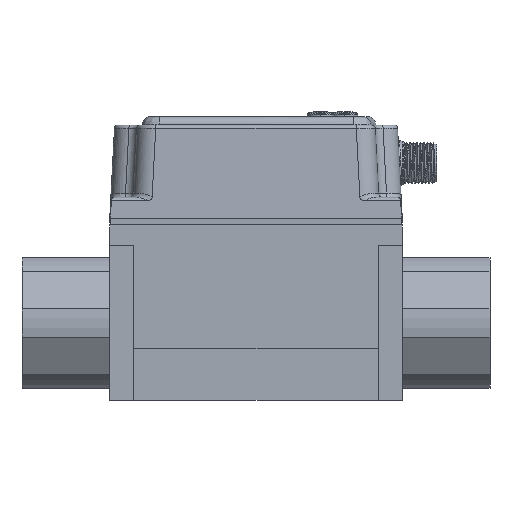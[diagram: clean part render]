
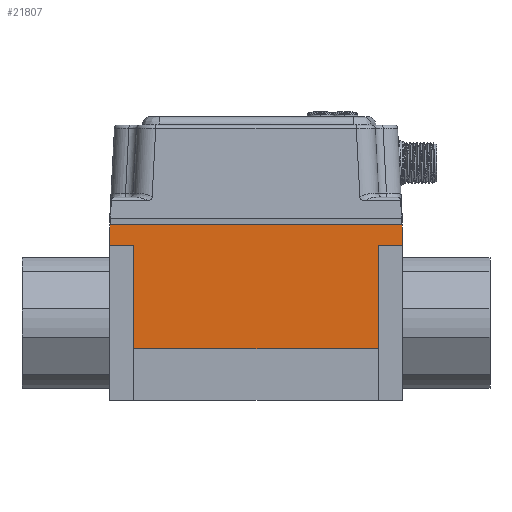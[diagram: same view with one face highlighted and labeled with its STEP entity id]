
A CAD part, front view. The second image highlights one B-rep face of the part: STEP entity #21807.
In plain terms, the highlighted planar face has unit normal (0, -1, 0).
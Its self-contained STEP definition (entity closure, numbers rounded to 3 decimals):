
#1643 = VECTOR ( 'NONE', #39839, 1000. ) ;
#2556 = DIRECTION ( 'NONE',  ( 0., 0., -1. ) ) ;
#3034 = CARTESIAN_POINT ( 'NONE',  ( -41., -21.5, -4.4 ) ) ;
#6923 = VECTOR ( 'NONE', #108307, 1000. ) ;
#11722 = CARTESIAN_POINT ( 'NONE',  ( 30., -21.5, -34.4 ) ) ;
#12750 = EDGE_CURVE ( 'NONE', #123979, #86198, #103995, .T. ) ;
#14672 = EDGE_CURVE ( 'NONE', #140721, #24579, #104472, .T. ) ;
#17910 = VERTEX_POINT ( 'NONE', #46565 ) ;
#18131 = ORIENTED_EDGE ( 'NONE', *, *, #102226, .F. ) ;
#21807 = ADVANCED_FACE ( 'NONE', ( #109444 ), #43523, .F. ) ;
#24579 = VERTEX_POINT ( 'NONE', #85633 ) ;
#24910 = CARTESIAN_POINT ( 'NONE',  ( -41., -21.5, -4.4 ) ) ;
#29297 = EDGE_CURVE ( 'NONE', #24579, #128346, #43829, .T. ) ;
#38266 = LINE ( 'NONE', #62882, #50941 ) ;
#39839 = DIRECTION ( 'NONE',  ( 0., 0., -1. ) ) ;
#40553 = ORIENTED_EDGE ( 'NONE', *, *, #129197, .F. ) ;
#42756 = EDGE_LOOP ( 'NONE', ( #141335, #135728, #18131, #98484, #116358, #87081, #106268, #40553 ) ) ;
#43523 = PLANE ( 'NONE',  #157452 ) ;
#43829 = LINE ( 'NONE', #84228, #144358 ) ;
#46565 = CARTESIAN_POINT ( 'NONE',  ( -41., -21.5, -34.4 ) ) ;
#48871 = LINE ( 'NONE', #91607, #139483 ) ;
#50941 = VECTOR ( 'NONE', #117332, 1000. ) ;
#62882 = CARTESIAN_POINT ( 'NONE',  ( 37., -21.5, -4.4 ) ) ;
#66162 = DIRECTION ( 'NONE',  ( -1., 0., 0. ) ) ;
#67076 = CARTESIAN_POINT ( 'NONE',  ( 37., -21.5, 1.6 ) ) ;
#82971 = CARTESIAN_POINT ( 'NONE',  ( 37., -21.5, 1.6 ) ) ;
#84172 = CARTESIAN_POINT ( 'NONE',  ( -48., -21.5, -4.4 ) ) ;
#84228 = CARTESIAN_POINT ( 'NONE',  ( -48., -21.5, 1.6 ) ) ;
#84876 = EDGE_CURVE ( 'NONE', #140721, #138950, #132976, .T. ) ;
#85633 = CARTESIAN_POINT ( 'NONE',  ( -48., -21.5, 1.6 ) ) ;
#86198 = VERTEX_POINT ( 'NONE', #140206 ) ;
#87081 = ORIENTED_EDGE ( 'NONE', *, *, #29297, .T. ) ;
#91607 = CARTESIAN_POINT ( 'NONE',  ( -41., -21.5, -34.4 ) ) ;
#95969 = LINE ( 'NONE', #150499, #6923 ) ;
#97091 = DIRECTION ( 'NONE',  ( 1., 0., 0. ) ) ;
#98484 = ORIENTED_EDGE ( 'NONE', *, *, #84876, .F. ) ;
#102226 = EDGE_CURVE ( 'NONE', #138950, #86198, #38266, .T. ) ;
#103995 = LINE ( 'NONE', #11722, #157951 ) ;
#104472 = LINE ( 'NONE', #120294, #163611 ) ;
#106268 = ORIENTED_EDGE ( 'NONE', *, *, #132198, .F. ) ;
#108307 = DIRECTION ( 'NONE',  ( 1., 0., 0. ) ) ;
#108325 = LINE ( 'NONE', #24910, #134060 ) ;
#109444 = FACE_OUTER_BOUND ( 'NONE', #42756, .T. ) ;
#116358 = ORIENTED_EDGE ( 'NONE', *, *, #14672, .T. ) ;
#117332 = DIRECTION ( 'NONE',  ( -1., 0., 0. ) ) ;
#120114 = VERTEX_POINT ( 'NONE', #3034 ) ;
#120294 = CARTESIAN_POINT ( 'NONE',  ( 37., -21.5, 1.6 ) ) ;
#121144 = EDGE_CURVE ( 'NONE', #17910, #123979, #95969, .T. ) ;
#123979 = VERTEX_POINT ( 'NONE', #134665 ) ;
#128346 = VERTEX_POINT ( 'NONE', #84172 ) ;
#129197 = EDGE_CURVE ( 'NONE', #17910, #120114, #48871, .T. ) ;
#129575 = CARTESIAN_POINT ( 'NONE',  ( 37., -21.5, -4.4 ) ) ;
#132198 = EDGE_CURVE ( 'NONE', #120114, #128346, #108325, .T. ) ;
#132976 = LINE ( 'NONE', #67076, #1643 ) ;
#134060 = VECTOR ( 'NONE', #66162, 1000. ) ;
#134665 = CARTESIAN_POINT ( 'NONE',  ( 30., -21.5, -34.4 ) ) ;
#135728 = ORIENTED_EDGE ( 'NONE', *, *, #12750, .T. ) ;
#135822 = DIRECTION ( 'NONE',  ( 0., 1., 0. ) ) ;
#138950 = VERTEX_POINT ( 'NONE', #129575 ) ;
#139483 = VECTOR ( 'NONE', #173391, 1000. ) ;
#140206 = CARTESIAN_POINT ( 'NONE',  ( 30., -21.5, -4.4 ) ) ;
#140721 = VERTEX_POINT ( 'NONE', #82971 ) ;
#141335 = ORIENTED_EDGE ( 'NONE', *, *, #121144, .T. ) ;
#144358 = VECTOR ( 'NONE', #2556, 1000. ) ;
#150499 = CARTESIAN_POINT ( 'NONE',  ( -41., -21.5, -34.4 ) ) ;
#157452 = AXIS2_PLACEMENT_3D ( 'NONE', #163052, #135822, #97091 ) ;
#157641 = DIRECTION ( 'NONE',  ( 0., 0., 1. ) ) ;
#157951 = VECTOR ( 'NONE', #157641, 1000. ) ;
#158138 = DIRECTION ( 'NONE',  ( -1., 0., 0. ) ) ;
#163052 = CARTESIAN_POINT ( 'NONE',  ( 19., -21.5, -24. ) ) ;
#163611 = VECTOR ( 'NONE', #158138, 1000. ) ;
#173391 = DIRECTION ( 'NONE',  ( 0., 0., 1. ) ) ;
